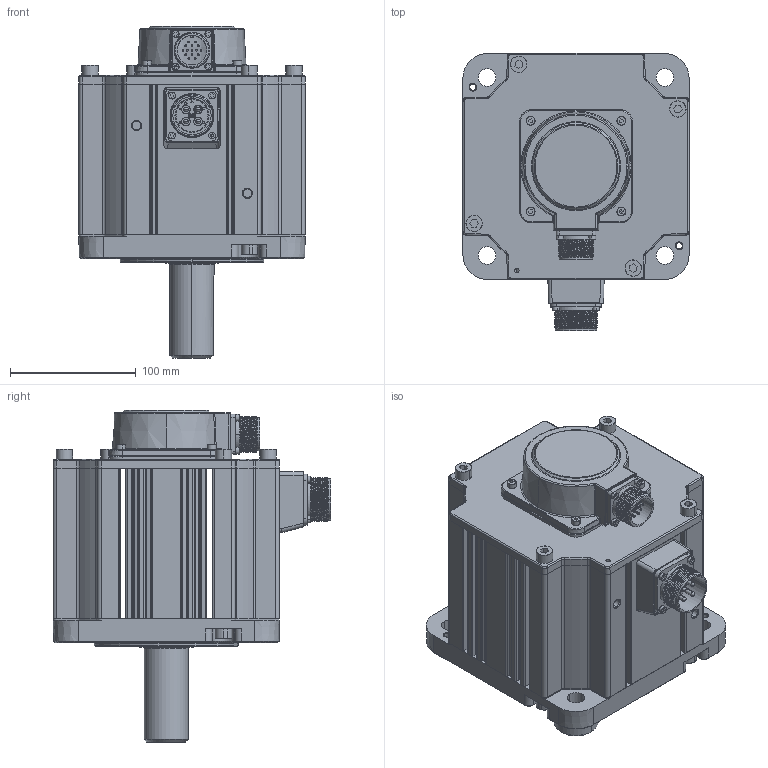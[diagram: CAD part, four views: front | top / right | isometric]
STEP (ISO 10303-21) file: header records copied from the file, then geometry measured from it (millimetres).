
FILE_DESCRIPTION (( 'STEP AP203' ), '1' );
FILE_NAME ('MS6G-180CN15B2-44P4.STEP', '2023-12-30T03:43:53', ( '' ), ( '' ), 'SwSTEP 2.0', 'SolidWorks 2022', '' );
FILE_SCHEMA (( 'CONFIG_CONTROL_DESIGN' ));
Products named in the file (1): MS6G-180CN15B2-44P4
Bounding box: 180 x 220.9 x 264 mm (x, y, z)
Surface area: 247699 mm2 (no closed solid volume)
Topology: 0 solids, 73 shells, 1327 faces, 3991 edges, 2687 vertices
Faces by surface type: plane 463, cylinder 426, bspline 153, torus 140, cone 103, sphere 42
Entity records: 63125 total; most frequent: CARTESIAN_POINT 28996, DIRECTION 7032, ORIENTED_EDGE 6553, EDGE_CURVE 3945, VERTEX_POINT 2687, AXIS2_PLACEMENT_3D 2597, LINE 1838, VECTOR 1838
